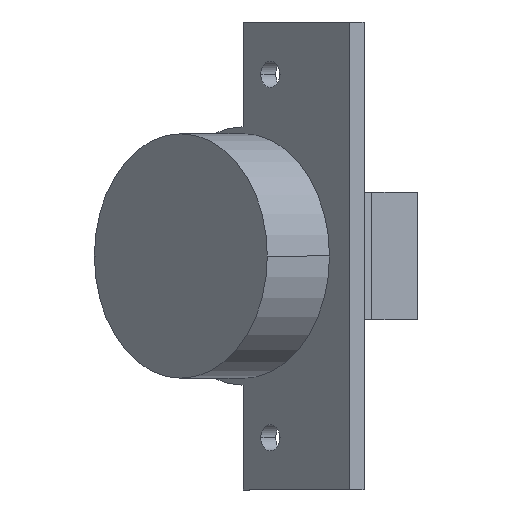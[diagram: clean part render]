
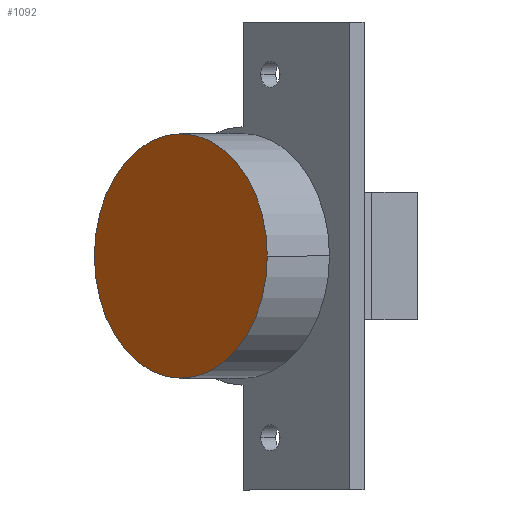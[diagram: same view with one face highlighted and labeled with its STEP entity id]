
A CAD part, front view. The second image highlights one B-rep face of the part: STEP entity #1092.
In plain terms, the highlighted planar face has unit normal (-0.707, -0.707, 0).
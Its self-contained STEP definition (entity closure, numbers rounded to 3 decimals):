
#147 = AXIS2_PLACEMENT_3D ( 'NONE', #198, #904, #210 ) ;
#175 = ORIENTED_EDGE ( 'NONE', *, *, #1424, .T. ) ;
#198 = CARTESIAN_POINT ( 'NONE',  ( -6.36, -43.86, 0. ) ) ;
#210 = DIRECTION ( 'NONE',  ( 0.707, -0.707, 0. ) ) ;
#221 = DIRECTION ( 'NONE',  ( -0.707, -0.707, 0. ) ) ;
#239 = EDGE_CURVE ( 'NONE', #1499, #447, #564, .T. ) ;
#315 = PLANE ( 'NONE',  #147 ) ;
#367 = ORIENTED_EDGE ( 'NONE', *, *, #239, .T. ) ;
#447 = VERTEX_POINT ( 'NONE', #1213 ) ;
#564 = CIRCLE ( 'NONE', #1363, 17.5 ) ;
#568 = FACE_OUTER_BOUND ( 'NONE', #833, .T. ) ;
#583 = DIRECTION ( 'NONE',  ( 0.707, -0.707, 0. ) ) ;
#788 = DIRECTION ( 'NONE',  ( 0.707, -0.707, 0. ) ) ;
#823 = CARTESIAN_POINT ( 'NONE',  ( -18.734, -31.485, 0. ) ) ;
#833 = EDGE_LOOP ( 'NONE', ( #367, #175 ) ) ;
#904 = DIRECTION ( 'NONE',  ( -0.707, -0.707, 0. ) ) ;
#1041 = AXIS2_PLACEMENT_3D ( 'NONE', #1309, #1060, #583 ) ;
#1060 = DIRECTION ( 'NONE',  ( -0.707, -0.707, 0. ) ) ;
#1092 = ADVANCED_FACE ( 'NONE', ( #568 ), #315, .T. ) ;
#1213 = CARTESIAN_POINT ( 'NONE',  ( 6.015, -56.234, 0. ) ) ;
#1309 = CARTESIAN_POINT ( 'NONE',  ( -6.36, -43.86, 0. ) ) ;
#1363 = AXIS2_PLACEMENT_3D ( 'NONE', #1529, #221, #788 ) ;
#1424 = EDGE_CURVE ( 'NONE', #447, #1499, #1433, .T. ) ;
#1433 = CIRCLE ( 'NONE', #1041, 17.5 ) ;
#1499 = VERTEX_POINT ( 'NONE', #823 ) ;
#1529 = CARTESIAN_POINT ( 'NONE',  ( -6.36, -43.86, 0. ) ) ;
